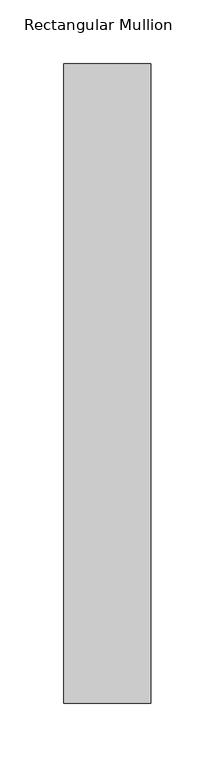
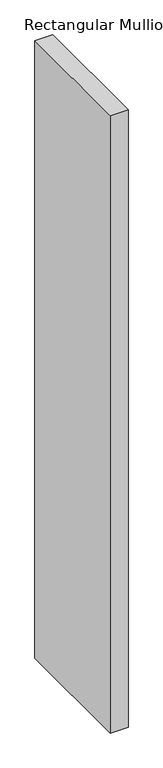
"""IFC4 building model written with IfcOpenShell, lengths in millimetres: member geometry, Rectangular Mullion : DucoSun Cubic Design louvre 500."""

from ifc_helpers import new_model, si_unit, frame, origin, place, context, project, spatial, polyline, outline, extrude, source, transform, mapped, element, save


def rectangular_mullion_8bd04ff6(model_context):
    return source(origin(), model_context, "Body", "SweptSolid", [
        extrude(outline(polyline([(34.0, 500.0), (34.0, 0.0), (-34.0, 0.0), (-34.0, 500.0), (34.0, 500.0)])), frame((0.0, 0.0, -2500.0), z_axis=(0.0, 0.0, 1.0), x_axis=(1.0, 0.0, 0.0)), (0.0, 0.0, 1.0), 2500.0),
    ])


if __name__ == "__main__":
    model = new_model("IFC4")
    model_context = context("Model", 3, world=origin())
    ifc_project = project(units=[si_unit("LENGTHUNIT", "METRE", prefix="MILLI")], contexts=[model_context])
    site = spatial("IfcSite", under=ifc_project)
    building = spatial("IfcBuilding", under=site)
    placement = place(None, origin())
    rectangular_mullion_shape = rectangular_mullion_8bd04ff6(model_context)
    element("IfcMember", 1, ObjectType="Rectangular Mullion : DucoSun Cubic Design louvre 500", at=placement, inside=building, context=model_context, shape_type="MappedRepresentation", body=[
        mapped(rectangular_mullion_shape, transform((0.0, 0.0, 0.0), x_axis=(1.0, 0.0, 0.0), y_axis=(0.0, 1.0, 0.0), z_axis=(0.0, 0.0, 1.0))),
    ])
    save(model, "model.ifc")
